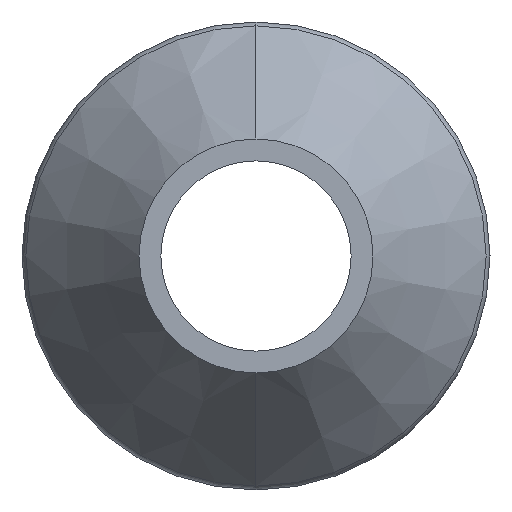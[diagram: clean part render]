
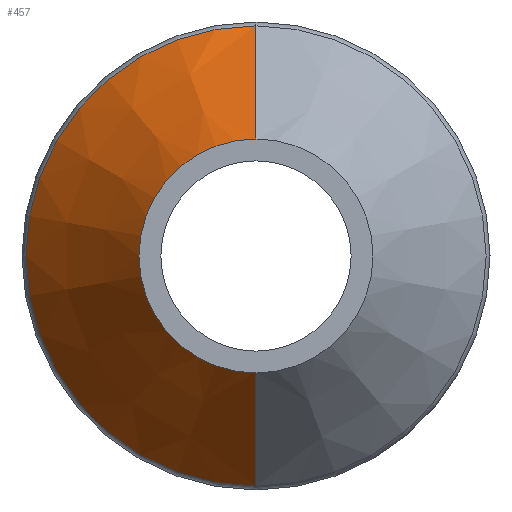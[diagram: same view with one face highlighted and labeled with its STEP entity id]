
A CAD part, left-side view. The second image highlights one B-rep face of the part: STEP entity #457.
In plain terms, the highlighted conical face has half-angle 36.87 degrees and reference radius 4.763 mm.
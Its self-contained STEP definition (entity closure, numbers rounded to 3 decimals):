
#12 = EDGE_CURVE ( 'NONE', #106, #400, #302, .T. ) ;
#20 = ORIENTED_EDGE ( 'NONE', *, *, #233, .F. ) ;
#23 = EDGE_CURVE ( 'NONE', #400, #289, #80, .T. ) ;
#39 = EDGE_LOOP ( 'NONE', ( #223, #173, #463, #20 ) ) ;
#51 = EDGE_CURVE ( 'NONE', #289, #155, #214, .T. ) ;
#62 = CARTESIAN_POINT ( 'NONE',  ( 19.05, 0., 4.763 ) ) ;
#78 = CARTESIAN_POINT ( 'NONE',  ( 19.05, 0., 4.763 ) ) ;
#80 = LINE ( 'NONE', #62, #340 ) ;
#82 = CARTESIAN_POINT ( 'NONE',  ( 19.05, 0., 0. ) ) ;
#93 = CARTESIAN_POINT ( 'NONE',  ( 19.05, 0., 0. ) ) ;
#100 = CARTESIAN_POINT ( 'NONE',  ( 25.19, 0., 0. ) ) ;
#106 = VERTEX_POINT ( 'NONE', #407 ) ;
#153 = AXIS2_PLACEMENT_3D ( 'NONE', #93, #494, #499 ) ;
#155 = VERTEX_POINT ( 'NONE', #315 ) ;
#157 = DIRECTION ( 'NONE',  ( 1., 0., 0. ) ) ;
#173 = ORIENTED_EDGE ( 'NONE', *, *, #23, .T. ) ;
#175 = DIRECTION ( 'NONE',  ( 0., 0., 1. ) ) ;
#196 = DIRECTION ( 'NONE',  ( 0., 0., -1. ) ) ;
#210 = FACE_OUTER_BOUND ( 'NONE', #39, .T. ) ;
#214 = CIRCLE ( 'NONE', #245, 9.368 ) ;
#223 = ORIENTED_EDGE ( 'NONE', *, *, #12, .T. ) ;
#233 = EDGE_CURVE ( 'NONE', #106, #155, #415, .T. ) ;
#245 = AXIS2_PLACEMENT_3D ( 'NONE', #100, #361, #175 ) ;
#253 = CONICAL_SURFACE ( 'NONE', #312, 4.763, 0.644 ) ;
#289 = VERTEX_POINT ( 'NONE', #516 ) ;
#295 = CARTESIAN_POINT ( 'NONE',  ( 19.05, 0., -4.763 ) ) ;
#302 = CIRCLE ( 'NONE', #153, 4.763 ) ;
#312 = AXIS2_PLACEMENT_3D ( 'NONE', #82, #157, #196 ) ;
#315 = CARTESIAN_POINT ( 'NONE',  ( 25.19, 0., -9.368 ) ) ;
#340 = VECTOR ( 'NONE', #497, 1000. ) ;
#361 = DIRECTION ( 'NONE',  ( -1., 0., 0. ) ) ;
#400 = VERTEX_POINT ( 'NONE', #78 ) ;
#407 = CARTESIAN_POINT ( 'NONE',  ( 19.05, 0., -4.763 ) ) ;
#415 = LINE ( 'NONE', #295, #454 ) ;
#423 = DIRECTION ( 'NONE',  ( 0.8, 0., -0.6 ) ) ;
#454 = VECTOR ( 'NONE', #423, 1000. ) ;
#457 = ADVANCED_FACE ( 'NONE', ( #210 ), #253, .T. ) ;
#463 = ORIENTED_EDGE ( 'NONE', *, *, #51, .T. ) ;
#494 = DIRECTION ( 'NONE',  ( 1., 0., 0. ) ) ;
#497 = DIRECTION ( 'NONE',  ( 0.8, 0., 0.6 ) ) ;
#499 = DIRECTION ( 'NONE',  ( 0., 0., -1. ) ) ;
#516 = CARTESIAN_POINT ( 'NONE',  ( 25.19, 0., 9.368 ) ) ;
